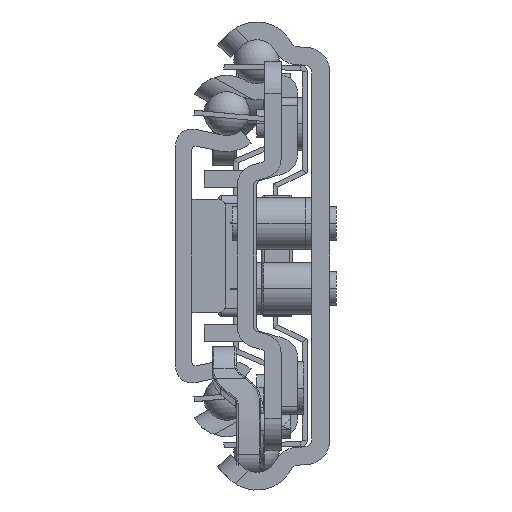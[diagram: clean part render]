
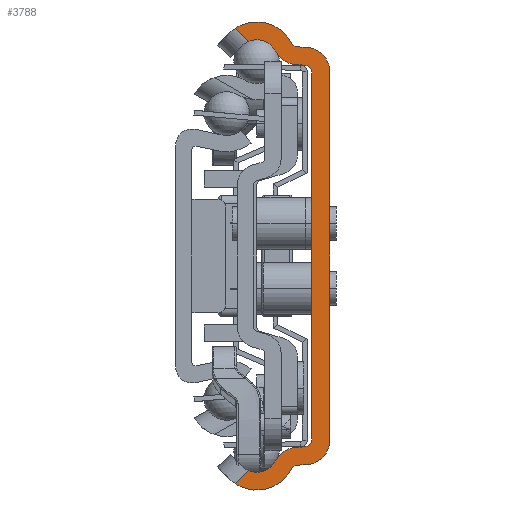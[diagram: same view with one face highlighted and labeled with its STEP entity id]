
A CAD part, left-side view. The second image highlights one B-rep face of the part: STEP entity #3788.
In plain terms, the highlighted planar face has unit normal (-1, 0, 0).
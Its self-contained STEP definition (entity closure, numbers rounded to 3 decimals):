
#1=DIRECTION('',(0.,0.717,-0.697));
#2=VECTOR('',#1,2.305);
#3=CARTESIAN_POINT('',(-200.,9.972,-26.461));
#4=LINE('',#3,#2);
#5=CARTESIAN_POINT('',(-200.,9.,-24.05));
#6=DIRECTION('',(-1.,0.,0.));
#7=DIRECTION('',(0.,0.374,-0.927));
#8=AXIS2_PLACEMENT_3D('',#5,#6,#7);
#10=CARTESIAN_POINT('',(-200.,4.005,-26.582));
#11=DIRECTION('',(-1.,0.,0.));
#12=DIRECTION('',(0.,0.07,0.998));
#13=AXIS2_PLACEMENT_3D('',#10,#11,#12);
#15=DIRECTION('',(0.,-0.998,0.07));
#16=VECTOR('',#15,1.087);
#17=CARTESIAN_POINT('',(-200.,4.214,-23.589));
#18=LINE('',#17,#16);
#19=DIRECTION('',(0.,0.,1.));
#20=VECTOR('',#19,45.032);
#21=CARTESIAN_POINT('',(-200.,2.2,-22.516));
#22=LINE('',#21,#20);
#23=DIRECTION('',(0.,0.998,0.07));
#24=VECTOR('',#23,1.087);
#25=CARTESIAN_POINT('',(-200.,3.13,23.514));
#26=LINE('',#25,#24);
#27=CARTESIAN_POINT('',(-200.,4.005,26.582));
#28=DIRECTION('',(-1.,0.,0.));
#29=DIRECTION('',(0.,0.892,-0.452));
#30=AXIS2_PLACEMENT_3D('',#27,#28,#29);
#32=CARTESIAN_POINT('',(-200.,9.,24.05));
#33=DIRECTION('',(-1.,0.,0.));
#34=DIRECTION('',(0.,-0.892,0.452));
#35=AXIS2_PLACEMENT_3D('',#32,#33,#34);
#37=DIRECTION('',(0.,-0.717,-0.697));
#38=VECTOR('',#37,2.305);
#39=CARTESIAN_POINT('',(-200.,11.624,28.069));
#40=LINE('',#39,#38);
#41=CARTESIAN_POINT('',(-200.,9.,24.05));
#42=DIRECTION('',(1.,0.,0.));
#43=DIRECTION('',(0.,0.547,0.837));
#44=AXIS2_PLACEMENT_3D('',#41,#42,#43);
#46=DIRECTION('',(0.,-0.998,-0.07));
#47=VECTOR('',#46,1.161);
#48=CARTESIAN_POINT('',(-200.,3.949,25.776));
#49=LINE('',#48,#47);
#50=CARTESIAN_POINT('',(-200.,3.,22.702));
#51=DIRECTION('',(-1.,0.,0.));
#52=DIRECTION('',(0.,-1.,0.));
#53=AXIS2_PLACEMENT_3D('',#50,#51,#52);
#55=DIRECTION('',(0.,0.,-1.));
#56=VECTOR('',#55,45.405);
#57=CARTESIAN_POINT('',(-200.,0.,22.702));
#58=LINE('',#57,#56);
#59=CARTESIAN_POINT('',(-200.,3.,-22.702));
#60=DIRECTION('',(-1.,0.,0.));
#61=DIRECTION('',(0.,-0.07,-0.998));
#62=AXIS2_PLACEMENT_3D('',#59,#60,#61);
#64=DIRECTION('',(0.,0.998,-0.07));
#65=VECTOR('',#64,1.161);
#66=CARTESIAN_POINT('',(-200.,2.791,-25.695));
#67=LINE('',#66,#65);
#68=CARTESIAN_POINT('',(-200.,9.,-24.05));
#69=DIRECTION('',(1.,0.,0.));
#70=DIRECTION('',(0.,-0.883,-0.47));
#71=AXIS2_PLACEMENT_3D('',#68,#69,#70);
#79=CARTESIAN_POINT('',(-200.,11.624,-28.069));
#103=CARTESIAN_POINT('',(-200.,9.972,-26.461));
#195=CARTESIAN_POINT('',(-200.,11.624,28.069));
#201=CARTESIAN_POINT('',(-200.,3.879,26.774));
#202=DIRECTION('',(1.,0.,0.));
#203=DIRECTION('',(0.,0.07,-0.998));
#204=AXIS2_PLACEMENT_3D('',#201,#202,#203);
#903=CARTESIAN_POINT('',(-200.,3.879,-26.774));
#904=DIRECTION('',(1.,0.,0.));
#905=DIRECTION('',(0.,0.883,0.47));
#906=AXIS2_PLACEMENT_3D('',#903,#904,#905);
#1674=CARTESIAN_POINT('',(-200.,3.2,-22.516));
#1675=DIRECTION('',(1.,0.,0.));
#1676=DIRECTION('',(0.,-1.,0.));
#1677=AXIS2_PLACEMENT_3D('',#1674,#1675,#1676);
#1692=CARTESIAN_POINT('',(-200.,3.2,22.516));
#1693=DIRECTION('',(1.,0.,0.));
#1694=DIRECTION('',(0.,-0.07,0.998));
#1695=AXIS2_PLACEMENT_3D('',#1692,#1693,#1694);
#1716=CARTESIAN_POINT('',(-200.,9.972,26.461));
#2957=CARTESIAN_POINT('',(-200.,2.2,-22.516));
#2959=VERTEX_POINT('',#2957);
#2961=CARTESIAN_POINT('',(-200.,3.13,-23.514));
#2963=VERTEX_POINT('',#2961);
#2965=CARTESIAN_POINT('',(-200.,3.13,23.514));
#2967=VERTEX_POINT('',#2965);
#2969=CARTESIAN_POINT('',(-200.,2.2,22.516));
#2971=VERTEX_POINT('',#2969);
#2973=CARTESIAN_POINT('',(-200.,3.949,25.776));
#2975=VERTEX_POINT('',#2973);
#2977=CARTESIAN_POINT('',(-200.,4.762,26.304));
#2979=VERTEX_POINT('',#2977);
#2981=CARTESIAN_POINT('',(-200.,4.762,-26.304));
#2983=VERTEX_POINT('',#2981);
#2985=CARTESIAN_POINT('',(-200.,3.949,-25.776));
#2987=VERTEX_POINT('',#2985);
#2989=CARTESIAN_POINT('',(-200.,4.214,-23.589));
#2990=CARTESIAN_POINT('',(-200.,6.681,-25.226));
#2991=VERTEX_POINT('',#2989);
#2992=VERTEX_POINT('',#2990);
#2997=CARTESIAN_POINT('',(-200.,6.681,25.226));
#2998=CARTESIAN_POINT('',(-200.,4.214,23.589));
#2999=VERTEX_POINT('',#2997);
#3000=VERTEX_POINT('',#2998);
#3005=CARTESIAN_POINT('',(-200.,0.,22.702));
#3006=CARTESIAN_POINT('',(-200.,2.791,25.695));
#3007=VERTEX_POINT('',#3005);
#3008=VERTEX_POINT('',#3006);
#3013=CARTESIAN_POINT('',(-200.,2.791,-25.695));
#3014=CARTESIAN_POINT('',(-200.,0.,-22.702));
#3015=VERTEX_POINT('',#3013);
#3016=VERTEX_POINT('',#3014);
#3363=VERTEX_POINT('',#79);
#3371=VERTEX_POINT('',#103);
#3372=VERTEX_POINT('',#1716);
#3380=VERTEX_POINT('',#195);
#3741=CARTESIAN_POINT('',(-200.,0.,0.));
#3742=DIRECTION('',(1.,0.,0.));
#3743=DIRECTION('',(0.,-1.,0.));
#3744=AXIS2_PLACEMENT_3D('',#3741,#3742,#3743);
#3745=PLANE('',#3744);
#3747=ORIENTED_EDGE('',*,*,#3746,.F.);
#3749=ORIENTED_EDGE('',*,*,#3748,.T.);
#3751=ORIENTED_EDGE('',*,*,#3750,.F.);
#3753=ORIENTED_EDGE('',*,*,#3752,.T.);
#3755=ORIENTED_EDGE('',*,*,#3754,.F.);
#3757=ORIENTED_EDGE('',*,*,#3756,.T.);
#3759=ORIENTED_EDGE('',*,*,#3758,.F.);
#3761=ORIENTED_EDGE('',*,*,#3760,.T.);
#3763=ORIENTED_EDGE('',*,*,#3762,.F.);
#3765=ORIENTED_EDGE('',*,*,#3764,.T.);
#3767=ORIENTED_EDGE('',*,*,#3766,.F.);
#3769=ORIENTED_EDGE('',*,*,#3768,.T.);
#3771=ORIENTED_EDGE('',*,*,#3770,.F.);
#3773=ORIENTED_EDGE('',*,*,#3772,.T.);
#3775=ORIENTED_EDGE('',*,*,#3774,.F.);
#3777=ORIENTED_EDGE('',*,*,#3776,.T.);
#3779=ORIENTED_EDGE('',*,*,#3778,.F.);
#3781=ORIENTED_EDGE('',*,*,#3780,.T.);
#3783=ORIENTED_EDGE('',*,*,#3782,.F.);
#3785=ORIENTED_EDGE('',*,*,#3784,.T.);
#3786=EDGE_LOOP('',(#3747,#3749,#3751,#3753,#3755,#3757,#3759,#3761,#3763,#3765,
#3767,#3769,#3771,#3773,#3775,#3777,#3779,#3781,#3783,#3785));
#3787=FACE_OUTER_BOUND('',#3786,.F.);
#9=CIRCLE('',#8,2.6);
#14=CIRCLE('',#13,3.);
#31=CIRCLE('',#30,3.);
#36=CIRCLE('',#35,2.6);
#45=CIRCLE('',#44,4.8);
#54=CIRCLE('',#53,3.);
#63=CIRCLE('',#62,3.);
#72=CIRCLE('',#71,4.8);
#205=CIRCLE('',#204,1.);
#907=CIRCLE('',#906,1.);
#1678=CIRCLE('',#1677,1.);
#1696=CIRCLE('',#1695,1.);
#3746=EDGE_CURVE('',#3371,#3363,#4,.T.);
#3748=EDGE_CURVE('',#3371,#2992,#9,.T.);
#3750=EDGE_CURVE('',#2991,#2992,#14,.T.);
#3752=EDGE_CURVE('',#2991,#2963,#18,.T.);
#3754=EDGE_CURVE('',#2959,#2963,#1678,.T.);
#3756=EDGE_CURVE('',#2959,#2971,#22,.T.);
#3758=EDGE_CURVE('',#2967,#2971,#1696,.T.);
#3760=EDGE_CURVE('',#2967,#3000,#26,.T.);
#3762=EDGE_CURVE('',#2999,#3000,#31,.T.);
#3764=EDGE_CURVE('',#2999,#3372,#36,.T.);
#3766=EDGE_CURVE('',#3380,#3372,#40,.T.);
#3768=EDGE_CURVE('',#3380,#2979,#45,.T.);
#3770=EDGE_CURVE('',#2975,#2979,#205,.T.);
#3772=EDGE_CURVE('',#2975,#3008,#49,.T.);
#3774=EDGE_CURVE('',#3007,#3008,#54,.T.);
#3776=EDGE_CURVE('',#3007,#3016,#58,.T.);
#3778=EDGE_CURVE('',#3015,#3016,#63,.T.);
#3780=EDGE_CURVE('',#3015,#2987,#67,.T.);
#3782=EDGE_CURVE('',#2983,#2987,#907,.T.);
#3784=EDGE_CURVE('',#2983,#3363,#72,.T.);
#3788=ADVANCED_FACE('',(#3787),#3745,.F.);
